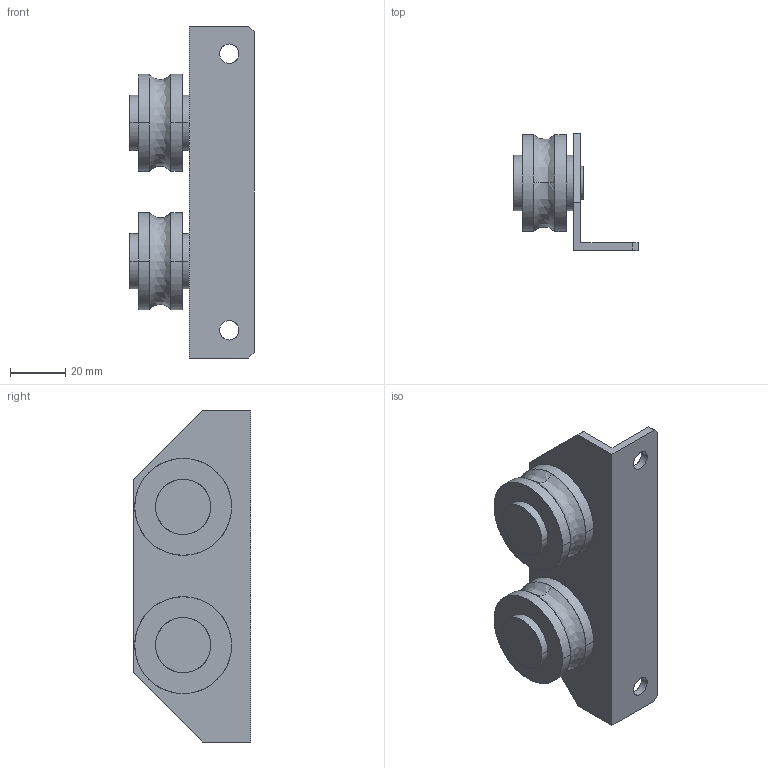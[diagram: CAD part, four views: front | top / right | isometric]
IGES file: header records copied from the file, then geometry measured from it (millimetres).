
Global section: file name: No Iges File Name specified; native system: AutoDesk Inventor R11.0; preprocessor: AutoDesk Inventor Iges Exporter R11.0; author: No Author specified; organization: No Organization specified; date: 20190511.110916; units: millimetre
Bounding box: 44.9 x 42.4 x 120 mm (x, y, z)
Surface area: 22985.5 mm2 (no closed solid volume)
Topology: 0 solids, 0 shells, 54 faces, 356 edges, 356 vertices
Faces by surface type: bspline 54
